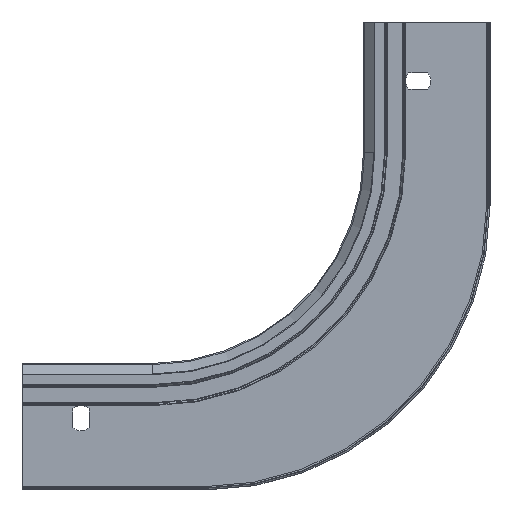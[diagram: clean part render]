
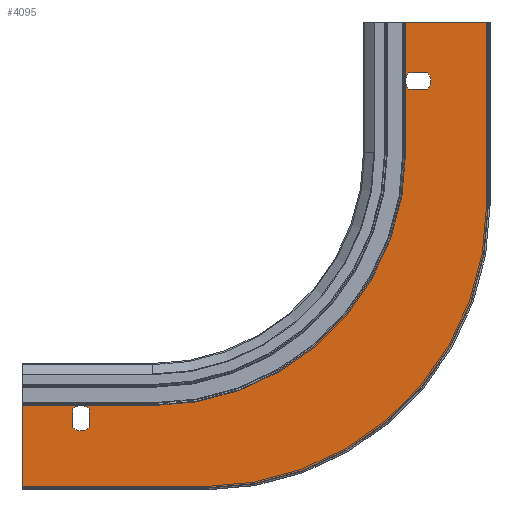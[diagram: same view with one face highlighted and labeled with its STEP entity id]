
A CAD part, left-side view. The second image highlights one B-rep face of the part: STEP entity #4095.
In plain terms, the highlighted planar face has unit normal (-1, 0, 0) as drawn and (0, -1, 0) by its records, which use the part's own axes.
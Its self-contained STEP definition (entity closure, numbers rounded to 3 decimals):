
#7 = LINE ( 'NONE', #5049, #3488 ) ;
#48 = ORIENTED_EDGE ( 'NONE', *, *, #5565, .F. ) ;
#94 = AXIS2_PLACEMENT_3D ( 'NONE', #2055, #3427, #5302 ) ;
#96 = LINE ( 'NONE', #127, #3022 ) ;
#127 = CARTESIAN_POINT ( 'NONE',  ( 40., 0., 0. ) ) ;
#130 = VERTEX_POINT ( 'NONE', #5903 ) ;
#169 = AXIS2_PLACEMENT_3D ( 'NONE', #1621, #4434, #3499 ) ;
#213 = VECTOR ( 'NONE', #1095, 1000. ) ;
#233 = ORIENTED_EDGE ( 'NONE', *, *, #1427, .T. ) ;
#251 = DIRECTION ( 'NONE',  ( 0., 0., -1. ) ) ;
#254 = LINE ( 'NONE', #4931, #3669 ) ;
#289 = ORIENTED_EDGE ( 'NONE', *, *, #3134, .F. ) ;
#322 = CARTESIAN_POINT ( 'NONE',  ( 1., 0., -87. ) ) ;
#328 = CARTESIAN_POINT ( 'NONE',  ( 190., 0., 0. ) ) ;
#386 = CARTESIAN_POINT ( 'NONE',  ( 1., 0., -87. ) ) ;
#424 = CARTESIAN_POINT ( 'NONE',  ( 135., 0., -221. ) ) ;
#427 = DIRECTION ( 'NONE',  ( 0., -1., 0. ) ) ;
#444 = CARTESIAN_POINT ( 'NONE',  ( 198., 0., -192.472 ) ) ;
#487 = CARTESIAN_POINT ( 'NONE',  ( 194., 0., -188. ) ) ;
#542 = ORIENTED_EDGE ( 'NONE', *, *, #1528, .F. ) ;
#576 = LINE ( 'NONE', #2502, #213 ) ;
#590 = DIRECTION ( 'NONE',  ( 0., 0., 1. ) ) ;
#726 = PLANE ( 'NONE',  #5362 ) ;
#729 = CARTESIAN_POINT ( 'NONE',  ( 222., 0., -181.669 ) ) ;
#748 = VERTEX_POINT ( 'NONE', #5397 ) ;
#786 = DIRECTION ( 'NONE',  ( -1., 0., 0. ) ) ;
#806 = CARTESIAN_POINT ( 'NONE',  ( 190., 0., -192.472 ) ) ;
#834 = CARTESIAN_POINT ( 'NONE',  ( 160., 0., -181.669 ) ) ;
#857 = CARTESIAN_POINT ( 'NONE',  ( 1., 0., 0. ) ) ;
#1062 = CIRCLE ( 'NONE', #169, 134. ) ;
#1095 = DIRECTION ( 'NONE',  ( 0., 0., -1. ) ) ;
#1141 = ORIENTED_EDGE ( 'NONE', *, *, #6000, .F. ) ;
#1158 = EDGE_LOOP ( 'NONE', ( #3329, #4671, #1141, #3935 ) ) ;
#1285 = CARTESIAN_POINT ( 'NONE',  ( 0., 0., -32. ) ) ;
#1290 = ORIENTED_EDGE ( 'NONE', *, *, #3562, .F. ) ;
#1350 = CIRCLE ( 'NONE', #1642, 6. ) ;
#1427 = EDGE_CURVE ( 'NONE', #130, #748, #254, .T. ) ;
#1487 = CARTESIAN_POINT ( 'NONE',  ( 34., 0., -28. ) ) ;
#1508 = ORIENTED_EDGE ( 'NONE', *, *, #5297, .F. ) ;
#1516 = CARTESIAN_POINT ( 'NONE',  ( 38.472, 0., -24. ) ) ;
#1519 = DIRECTION ( 'NONE',  ( 0., -1., 0. ) ) ;
#1528 = EDGE_CURVE ( 'NONE', #6031, #2442, #2646, .T. ) ;
#1606 = CARTESIAN_POINT ( 'NONE',  ( 194., 0., -182. ) ) ;
#1621 = CARTESIAN_POINT ( 'NONE',  ( 135., 0., -87. ) ) ;
#1642 = AXIS2_PLACEMENT_3D ( 'NONE', #5417, #4969, #2873 ) ;
#1652 = VECTOR ( 'NONE', #4933, 1000. ) ;
#1844 = CARTESIAN_POINT ( 'NONE',  ( 194., 0., -188. ) ) ;
#1936 = EDGE_CURVE ( 'NONE', #2442, #3746, #1062, .T. ) ;
#1940 = CIRCLE ( 'NONE', #94, 6. ) ;
#1947 = ORIENTED_EDGE ( 'NONE', *, *, #5815, .F. ) ;
#1976 = ORIENTED_EDGE ( 'NONE', *, *, #5990, .F. ) ;
#2055 = CARTESIAN_POINT ( 'NONE',  ( 194., 0., -188. ) ) ;
#2061 = AXIS2_PLACEMENT_3D ( 'NONE', #1487, #5210, #4385 ) ;
#2132 = VECTOR ( 'NONE', #4068, 1000. ) ;
#2190 = CARTESIAN_POINT ( 'NONE',  ( 222., 0., -221. ) ) ;
#2288 = EDGE_CURVE ( 'NONE', #5848, #3757, #1350, .T. ) ;
#2295 = EDGE_CURVE ( 'NONE', #2941, #5848, #5875, .T. ) ;
#2442 = VERTEX_POINT ( 'NONE', #424 ) ;
#2445 = CARTESIAN_POINT ( 'NONE',  ( 222., 0., -221. ) ) ;
#2487 = VERTEX_POINT ( 'NONE', #2862 ) ;
#2502 = CARTESIAN_POINT ( 'NONE',  ( 222., 0., -222. ) ) ;
#2519 = EDGE_LOOP ( 'NONE', ( #1947, #4937, #1290, #2888, #3345 ) ) ;
#2586 = VECTOR ( 'NONE', #786, 1000. ) ;
#2605 = LINE ( 'NONE', #1285, #3803 ) ;
#2646 = LINE ( 'NONE', #2190, #2586 ) ;
#2767 = EDGE_CURVE ( 'NONE', #5601, #3260, #4510, .T. ) ;
#2825 = AXIS2_PLACEMENT_3D ( 'NONE', #487, #427, #5593 ) ;
#2862 = CARTESIAN_POINT ( 'NONE',  ( 38.472, 0., -32. ) ) ;
#2873 = DIRECTION ( 'NONE',  ( 0., 0., -1. ) ) ;
#2888 = ORIENTED_EDGE ( 'NONE', *, *, #3734, .F. ) ;
#2941 = VERTEX_POINT ( 'NONE', #1516 ) ;
#2971 = DIRECTION ( 'NONE',  ( 1., 0., 0. ) ) ;
#3022 = VECTOR ( 'NONE', #2971, 1000. ) ;
#3055 = VERTEX_POINT ( 'NONE', #729 ) ;
#3095 = DIRECTION ( 'NONE',  ( 1., 0., 0. ) ) ;
#3130 = VERTEX_POINT ( 'NONE', #4990 ) ;
#3134 = EDGE_CURVE ( 'NONE', #3746, #5674, #3510, .T. ) ;
#3187 = VECTOR ( 'NONE', #5901, 1000. ) ;
#3215 = VERTEX_POINT ( 'NONE', #444 ) ;
#3226 = EDGE_CURVE ( 'NONE', #3215, #3130, #7, .T. ) ;
#3260 = VERTEX_POINT ( 'NONE', #806 ) ;
#3329 = ORIENTED_EDGE ( 'NONE', *, *, #2288, .F. ) ;
#3345 = ORIENTED_EDGE ( 'NONE', *, *, #3226, .F. ) ;
#3427 = DIRECTION ( 'NONE',  ( 0., -1., 0. ) ) ;
#3488 = VECTOR ( 'NONE', #590, 1000. ) ;
#3499 = DIRECTION ( 'NONE',  ( 0., 0., 1. ) ) ;
#3510 = LINE ( 'NONE', #322, #1652 ) ;
#3518 = CARTESIAN_POINT ( 'NONE',  ( 0., 0., -24. ) ) ;
#3562 = EDGE_CURVE ( 'NONE', #3567, #5601, #1940, .T. ) ;
#3567 = VERTEX_POINT ( 'NONE', #1606 ) ;
#3664 = DIRECTION ( 'NONE',  ( 0., -1., 0. ) ) ;
#3669 = VECTOR ( 'NONE', #5298, 1000. ) ;
#3719 = CIRCLE ( 'NONE', #2825, 6. ) ;
#3734 = EDGE_CURVE ( 'NONE', #3130, #3567, #3992, .T. ) ;
#3746 = VERTEX_POINT ( 'NONE', #386 ) ;
#3757 = VERTEX_POINT ( 'NONE', #5471 ) ;
#3803 = VECTOR ( 'NONE', #3095, 1000. ) ;
#3808 = CIRCLE ( 'NONE', #5951, 119.669 ) ;
#3833 = DIRECTION ( 'NONE',  ( 0., 0., -1. ) ) ;
#3935 = ORIENTED_EDGE ( 'NONE', *, *, #4600, .F. ) ;
#3976 = FACE_OUTER_BOUND ( 'NONE', #4004, .T. ) ;
#3992 = CIRCLE ( 'NONE', #4585, 6. ) ;
#4004 = EDGE_LOOP ( 'NONE', ( #289, #4034, #542, #1976, #5948, #1508, #233, #48 ) ) ;
#4034 = ORIENTED_EDGE ( 'NONE', *, *, #1936, .F. ) ;
#4068 = DIRECTION ( 'NONE',  ( 1., 0., 0. ) ) ;
#4095 = ADVANCED_FACE ( 'NONE', ( #5769, #5266, #3976 ), #726, .T. ) ;
#4164 = DIRECTION ( 'NONE',  ( 0., 0., -1. ) ) ;
#4224 = EDGE_CURVE ( 'NONE', #4642, #3055, #4622, .T. ) ;
#4313 = CIRCLE ( 'NONE', #2061, 6. ) ;
#4385 = DIRECTION ( 'NONE',  ( 0., 0., -1. ) ) ;
#4434 = DIRECTION ( 'NONE',  ( 0., 1., 0. ) ) ;
#4442 = DIRECTION ( 'NONE',  ( 0., -1., 0. ) ) ;
#4499 = CARTESIAN_POINT ( 'NONE',  ( 160., 0., -181.669 ) ) ;
#4510 = LINE ( 'NONE', #328, #3187 ) ;
#4575 = CARTESIAN_POINT ( 'NONE',  ( 29.528, 0., -24. ) ) ;
#4585 = AXIS2_PLACEMENT_3D ( 'NONE', #1844, #3664, #4164 ) ;
#4600 = EDGE_CURVE ( 'NONE', #3757, #2487, #2605, .T. ) ;
#4622 = LINE ( 'NONE', #4499, #2132 ) ;
#4642 = VERTEX_POINT ( 'NONE', #834 ) ;
#4671 = ORIENTED_EDGE ( 'NONE', *, *, #2295, .F. ) ;
#4768 = VECTOR ( 'NONE', #5902, 1000. ) ;
#4900 = CARTESIAN_POINT ( 'NONE',  ( 0., 0., 0. ) ) ;
#4921 = CARTESIAN_POINT ( 'NONE',  ( 190., 0., -183.528 ) ) ;
#4931 = CARTESIAN_POINT ( 'NONE',  ( 40.331, 0., -62. ) ) ;
#4933 = DIRECTION ( 'NONE',  ( 0., 0., 1. ) ) ;
#4937 = ORIENTED_EDGE ( 'NONE', *, *, #2767, .F. ) ;
#4969 = DIRECTION ( 'NONE',  ( 0., -1., 0. ) ) ;
#4990 = CARTESIAN_POINT ( 'NONE',  ( 198., 0., -183.528 ) ) ;
#5049 = CARTESIAN_POINT ( 'NONE',  ( 198., 0., 0. ) ) ;
#5210 = DIRECTION ( 'NONE',  ( 0., -1., 0. ) ) ;
#5266 = FACE_BOUND ( 'NONE', #2519, .T. ) ;
#5297 = EDGE_CURVE ( 'NONE', #130, #4642, #3808, .T. ) ;
#5298 = DIRECTION ( 'NONE',  ( 0., 0., 1. ) ) ;
#5302 = DIRECTION ( 'NONE',  ( 0., 0., -1. ) ) ;
#5362 = AXIS2_PLACEMENT_3D ( 'NONE', #4900, #4442, #251 ) ;
#5397 = CARTESIAN_POINT ( 'NONE',  ( 40.331, 0., 0. ) ) ;
#5417 = CARTESIAN_POINT ( 'NONE',  ( 34., 0., -28. ) ) ;
#5471 = CARTESIAN_POINT ( 'NONE',  ( 29.528, 0., -32. ) ) ;
#5565 = EDGE_CURVE ( 'NONE', #5674, #748, #96, .T. ) ;
#5593 = DIRECTION ( 'NONE',  ( 0., 0., -1. ) ) ;
#5601 = VERTEX_POINT ( 'NONE', #4921 ) ;
#5674 = VERTEX_POINT ( 'NONE', #857 ) ;
#5769 = FACE_BOUND ( 'NONE', #1158, .T. ) ;
#5815 = EDGE_CURVE ( 'NONE', #3260, #3215, #3719, .T. ) ;
#5848 = VERTEX_POINT ( 'NONE', #4575 ) ;
#5865 = CARTESIAN_POINT ( 'NONE',  ( 160., 0., -62. ) ) ;
#5875 = LINE ( 'NONE', #3518, #4768 ) ;
#5901 = DIRECTION ( 'NONE',  ( 0., 0., -1. ) ) ;
#5902 = DIRECTION ( 'NONE',  ( -1., 0., 0. ) ) ;
#5903 = CARTESIAN_POINT ( 'NONE',  ( 40.331, 0., -62. ) ) ;
#5948 = ORIENTED_EDGE ( 'NONE', *, *, #4224, .F. ) ;
#5951 = AXIS2_PLACEMENT_3D ( 'NONE', #5865, #1519, #3833 ) ;
#5990 = EDGE_CURVE ( 'NONE', #3055, #6031, #576, .T. ) ;
#6000 = EDGE_CURVE ( 'NONE', #2487, #2941, #4313, .T. ) ;
#6031 = VERTEX_POINT ( 'NONE', #2445 ) ;
